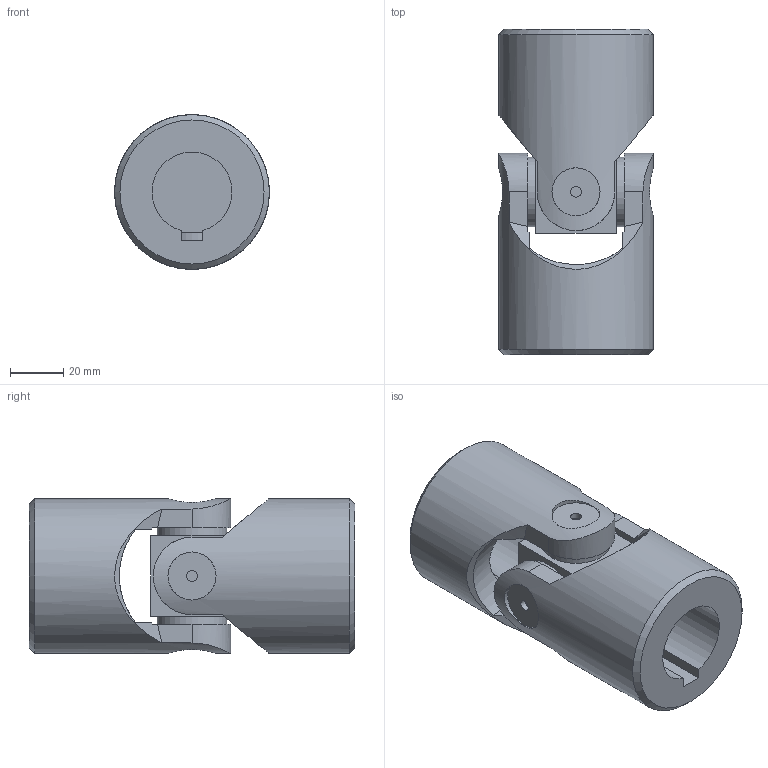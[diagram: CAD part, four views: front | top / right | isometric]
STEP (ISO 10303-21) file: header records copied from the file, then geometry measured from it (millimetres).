
FILE_DESCRIPTION(/* description */ (''),/* implementation_level */ '2;1');
FILE_NAME(/* name */ '\\SRV2016\Societa\Stefano\Disegni 3D\Dis. Clienti\0000Catalogo 3D\01Singoli G-GB\6G-1C_SG0S301C.stp',/* time_stamp */ '2021-11-10T11:14:34+01:00',/* author */ ('acquisti'),/* organization */ (''),/* preprocessor_version */ 'ST-DEVELOPER v15.6',/* originating_system */ 'Autodesk Inventor 2015',/* authorisation */ '');
FILE_SCHEMA (('AUTOMOTIVE_DESIGN { 1 0 10303 214 3 1 1 }'));
Length unit declared in the file: millimetre
Products named in the file (4): 6G SFE; 6G MOS; 6G MOC; Assieme1
Assembly tree (3 placements, depth 2):
  Assieme1
    6G SFE
    6G MOS
    6G MOC
Bounding box: 58 x 122 x 58 mm (x, y, z)
Volume: 210878.4 mm3; surface area: 44724.4 mm2
Topology: 3 solids, 3 shells, 75 faces, 181 edges, 122 vertices
Faces by surface type: plane 39, cylinder 22, cone 12, torus 2
Full cylindrical faces by diameter (mm): 4 x4, 18 x4, 26 x4, 30 x1, 32 x1, 58 x2
Entity records: 2582 total; most frequent: CARTESIAN_POINT 895, DIRECTION 321, ORIENTED_EDGE 318, EDGE_CURVE 159, AXIS2_PLACEMENT_3D 138, VERTEX_POINT 121, EDGE_LOOP 110, FACE_OUTER_BOUND 75
